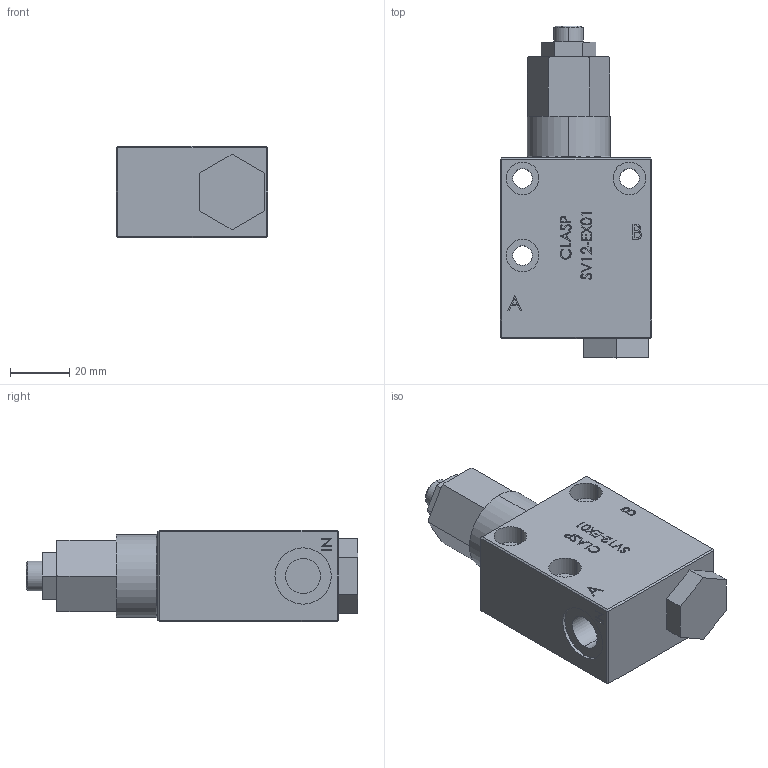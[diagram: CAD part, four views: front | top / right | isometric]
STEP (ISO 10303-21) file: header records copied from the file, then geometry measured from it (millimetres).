
FILE_DESCRIPTION (( 'STEP AP203' ), '1' );
FILE_NAME ('SEQUENCE VALVE SV12-EX01.STEP', '2021-08-09T16:57:08', ( '' ), ( '' ), 'SwSTEP 2.0', 'SolidWorks 2017', '' );
FILE_SCHEMA (( 'CONFIG_CONTROL_DESIGN' ));
Length unit declared in the file: millimetre
Products named in the file (1): SEQUENCE VALVE SV12-EX01
Bounding box: 51 x 111.9 x 30.8 mm (x, y, z)
Volume: 110639.5 mm3; surface area: 20102.1 mm2
Topology: 1 solids, 1 shells, 341 faces, 866 edges, 568 vertices
Faces by surface type: plane 223, bspline 84, cylinder 24, cone 10
Entity records: 14935 total; most frequent: CARTESIAN_POINT 7160, ORIENTED_EDGE 1732, DIRECTION 1260, EDGE_CURVE 866, VECTOR 628, LINE 628, VERTEX_POINT 568, EDGE_LOOP 388
